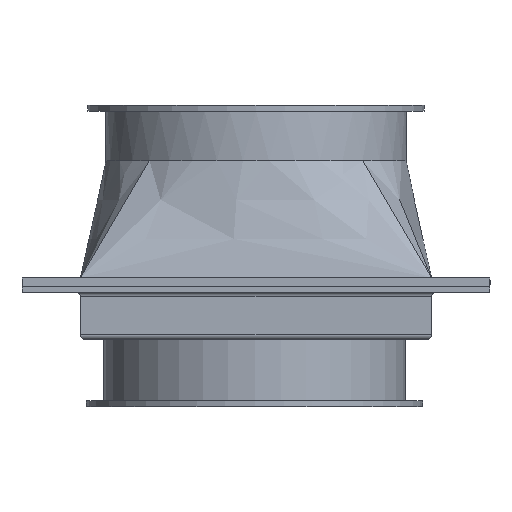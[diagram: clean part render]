
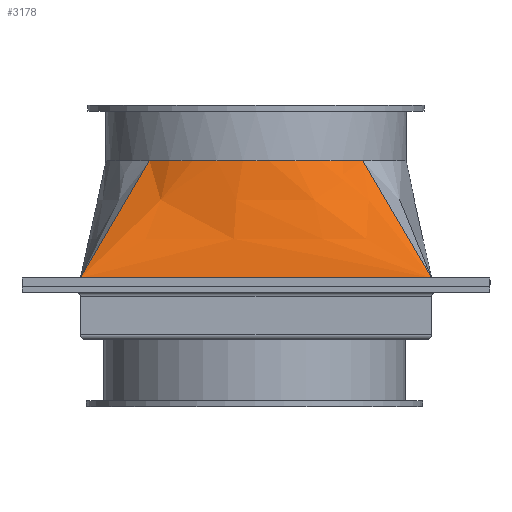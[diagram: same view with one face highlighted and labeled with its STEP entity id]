
A CAD part, left-side view. The second image highlights one B-rep face of the part: STEP entity #3178.
In plain terms, the highlighted free-form (B-spline) face has degree [3, 3] with [7, 4] control points.
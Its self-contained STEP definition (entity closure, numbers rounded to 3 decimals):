
#2454=CARTESIAN_POINT('',(0.0,0.0,0.0));
#2455=VERTEX_POINT('',#2454);
#2464=CARTESIAN_POINT('',(0.,120.0,0.0));
#2465=VERTEX_POINT('',#2464);
#2466=CARTESIAN_POINT('',(0.,120.0,0.0));
#2467=DIRECTION('',(0.0,-1.0,0.0));
#2468=VECTOR('',#2467,120.0);
#2469=LINE('',#2466,#2468);
#2470=EDGE_CURVE('',#2465,#2455,#2469,.T.);
#3110=CARTESIAN_POINT('',(-23.584,23.584,-40.0));
#3111=VERTEX_POINT('',#3110);
#3119=CARTESIAN_POINT('',(0.0,0.0,0.0));
#3120=CARTESIAN_POINT('',(-7.861,7.861,-13.333));
#3121=CARTESIAN_POINT('',(-15.723,15.723,-26.667));
#3122=CARTESIAN_POINT('',(-23.584,23.584,-40.0));
#3123=QUASI_UNIFORM_CURVE('',3,(#3119,#3120,#3121,#3122),.UNSPECIFIED.,.F.,.U.);
#3124=EDGE_CURVE('',#2455,#3111,#3123,.T.);
#3129=CARTESIAN_POINT('',(0.0,0.0,0.0));
#3130=CARTESIAN_POINT('',(0.,11.429,0.0));
#3131=CARTESIAN_POINT('',(0.,34.286,0.0));
#3132=CARTESIAN_POINT('',(0.,68.571,0.0));
#3133=CARTESIAN_POINT('',(0.,97.143,0.0));
#3134=CARTESIAN_POINT('',(0.,114.286,0.0));
#3135=CARTESIAN_POINT('',(0.,120.0,0.0));
#3136=CARTESIAN_POINT('',(-7.861,7.861,-13.333));
#3137=CARTESIAN_POINT('',(-6.044,17.295,-13.333));
#3138=CARTESIAN_POINT('',(-3.243,36.994,-13.333));
#3139=CARTESIAN_POINT('',(-2.358,67.702,-13.333));
#3140=CARTESIAN_POINT('',(-4.532,92.965,-13.333));
#3141=CARTESIAN_POINT('',(-6.955,107.42,-13.333));
#3142=CARTESIAN_POINT('',(-7.861,112.139,-13.333));
#3143=CARTESIAN_POINT('',(-15.723,15.723,-26.667));
#3144=CARTESIAN_POINT('',(-12.092,23.166,-26.667));
#3145=CARTESIAN_POINT('',(-6.487,39.701,-26.667));
#3146=CARTESIAN_POINT('',(-4.716,66.835,-26.667));
#3147=CARTESIAN_POINT('',(-9.066,88.784,-26.667));
#3148=CARTESIAN_POINT('',(-13.905,100.558,-26.667));
#3149=CARTESIAN_POINT('',(-15.723,104.277,-26.667));
#3150=CARTESIAN_POINT('',(-23.584,23.584,-40.0));
#3151=CARTESIAN_POINT('',(-18.136,29.032,-40.0));
#3152=CARTESIAN_POINT('',(-9.73,42.409,-40.));
#3153=CARTESIAN_POINT('',(-7.074,65.965,-40.));
#3154=CARTESIAN_POINT('',(-13.598,84.606,-40.));
#3155=CARTESIAN_POINT('',(-20.86,93.692,-40.0));
#3156=CARTESIAN_POINT('',(-23.584,96.416,-40.0));
#3157=B_SPLINE_SURFACE_WITH_KNOTS('',3,3,((#3129,#3136,#3143,#3150),(#3130,#3137,#3144,#3151),(#3131,#3138,#3145,#3152),(#3132,#3139,#3146,#3153),(#3133,#3140,#3147,#3154),(#3134,#3141,#3148,#3155),(#3135,#3142,#3149,#3156)),.UNSPECIFIED.,.F.,.F.,.U.,(4,1,1,1,4),(4,4),(0.0,0.286,0.571,0.857,1.0),(0.0,1.0),.UNSPECIFIED.);
#3158=ORIENTED_EDGE('',*,*,#2470,.T.);
#3159=ORIENTED_EDGE('',*,*,#3124,.T.);
#3160=CARTESIAN_POINT('',(-23.584,96.416,-40.0));
#3161=VERTEX_POINT('',#3160);
#3162=CARTESIAN_POINT('',(-60.,60.,-40.0));
#3163=DIRECTION('',(0.0,0.0,-1.0));
#3164=DIRECTION('',(1.0,0.0,0.0));
#3165=AXIS2_PLACEMENT_3D('',#3162,#3163,#3164);
#3166=CIRCLE('',#3165,51.5);
#3167=EDGE_CURVE('',#3161,#3111,#3166,.T.);
#3168=ORIENTED_EDGE('',*,*,#3167,.F.);
#3169=CARTESIAN_POINT('',(0.,120.0,0.0));
#3170=CARTESIAN_POINT('',(-7.861,112.139,-13.333));
#3171=CARTESIAN_POINT('',(-15.723,104.277,-26.667));
#3172=CARTESIAN_POINT('',(-23.584,96.416,-40.0));
#3173=QUASI_UNIFORM_CURVE('',3,(#3169,#3170,#3171,#3172),.UNSPECIFIED.,.F.,.U.);
#3174=EDGE_CURVE('',#2465,#3161,#3173,.T.);
#3175=ORIENTED_EDGE('',*,*,#3174,.F.);
#3176=EDGE_LOOP('',(#3158,#3159,#3168,#3175));
#3177=FACE_OUTER_BOUND('',#3176,.T.);
#3178=ADVANCED_FACE('',(#3177),#3157,.F.);
